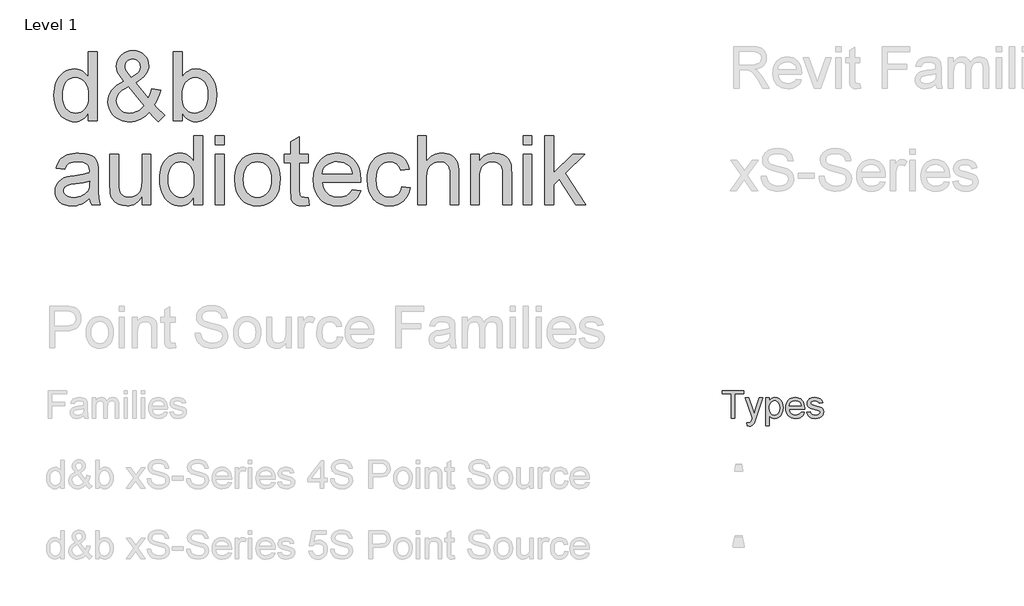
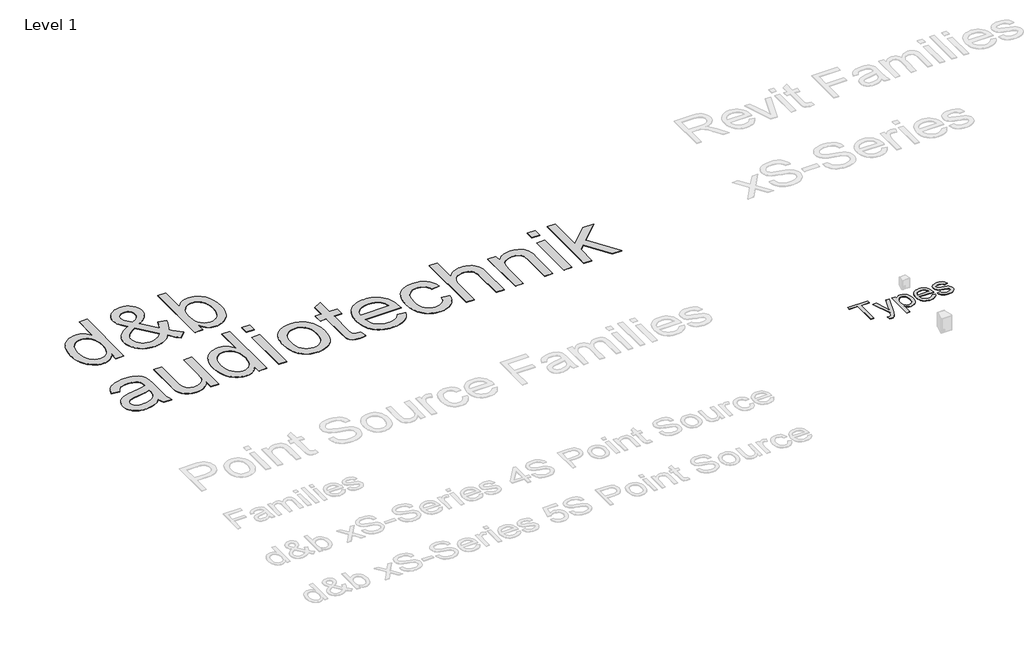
# One storey, part 53 of 55: 2 proxies.
"""IFC4 building model written with IfcOpenShell, lengths in millimetres."""

from ifc_helpers import new_model, si_unit, origin, origin_with_axes, place, context, project, spatial, polyline, outline, extrude, element, save

model = new_model("IFC4")

# Units and contexts
model_context = context("Model", 3, world=origin())
ifc_project = project(units=[si_unit("LENGTHUNIT", "METRE", prefix="MILLI")], contexts=[model_context])

# Site, building, storey
site = spatial("IfcSite", under=ifc_project)
building = spatial("IfcBuilding", under=site)
storey = spatial("IfcBuildingStorey", under=building, Name="Level 1", Elevation=0.0)

# Proxies
placement = place(None, origin())
element("IfcBuildingElementProxy", 1, Name="1000mm Arial", ObjectType="1000mm Arial", at=placement, inside=storey, context=model_context, shape_type="SweptSolid", body=[
    extrude(outline(polyline([(-20485.0918031, 21579.111869), (-20485.0918031, 21694.6019258), (-20502.4384754, 21663.947296), (-20521.720443, 21637.3799502), (-20542.937706, 21614.8998883), (-20566.0902643, 21596.5071105), (-20591.1781179, 21582.2016166), (-20618.2012669, 21571.9834066), (-20647.1597112, 21565.8524807), (-20678.0534508, 21563.8088387), (-20718.4630152, 21566.7678231), (-20757.1988107, 21575.6447762), (-20794.2608372, 21590.4396981), (-20829.6490948, 21611.1525887), (-20862.2577004, 21637.1632569), (-20890.9807709, 21667.8515115), (-20915.8183064, 21703.2173525), (-20936.7703069, 21743.26078), (-20953.4033857, 21787.2196312), (-20965.2841563, 21834.3317435), (-20972.4126187, 21884.597117), (-20974.7887728, 21938.0157516), (-20972.5994233, 21990.4555302), (-20966.0313746, 22040.4145442), (-20955.0846269, 22087.8927935), (-20939.75918, 22132.8902781), (-20920.0625062, 22174.0918939), (-20896.0020777, 22210.1825366), (-20867.5778945, 22241.1622064), (-20834.7899565, 22267.0309031), (-20798.7964521, 22287.429962), (-20760.7555697, 22302.0007184), (-20720.6673091, 22310.7431723), (-20678.5316705, 22313.6573235), (-20647.7163888, 22311.5725845), (-20618.6346535, 22305.3183676), (-20591.2864646, 22294.8946726), (-20565.671822, 22280.3014997), (-20542.0746689, 22262.3757332), (-20520.778948, 22241.9542577), (-20501.7846594, 22219.0370732), (-20485.0918031, 22193.6241796), (-20485.0918031, 22558.5058084), (-20362.6675607, 22558.5058084), (-20362.6675607, 21579.111869), (-20485.0918031, 21579.111869)]), holes=[polyline([(-20852.3645304, 21938.4939713), (-20848.9123819, 21879.1274792), (-20838.5559366, 21827.7562227), (-20821.2951944, 21784.3802017), (-20797.1301554, 21748.9994163), (-20768.2725855, 21721.5391447), (-20736.934251, 21701.9246649), (-20703.1151518, 21690.1559771), (-20666.815288, 21686.2330811), (-20630.3435639, 21689.9766447), (-20596.7262136, 21701.2073354), (-20565.9632372, 21719.9251532), (-20538.0546345, 21746.1300982), (-20514.8833958, 21780.0313914), (-20498.332511, 21821.8382539), (-20488.4019801, 21871.5506859), (-20485.0918031, 21929.1686872), (-20488.4617575, 21992.3385203), (-20498.5716208, 22046.5118453), (-20515.4213929, 22091.6886623), (-20539.0110739, 22127.8689713), (-20567.5323956, 22155.5907693), (-20599.1770896, 22175.3920537), (-20633.945156, 22187.2728242), (-20671.8365948, 22191.2330811), (-20708.8537882, 22187.4297401), (-20742.6728874, 22176.019717), (-20773.2938924, 22157.0030119), (-20800.7168031, 22130.3796247), (-20823.3126838, 22095.5667252), (-20839.4525986, 22051.9814831), (-20849.1365474, 21999.6238985), (-20852.3645304, 21938.4939713)])]), origin_with_axes(), (0.0, 0.0, 1.0), 5.0),
    extrude(outline(polyline([(-19617.362163, 21700.1014523), (-19647.8038355, 21668.157871), (-19679.590501, 21640.4734339), (-19712.7221594, 21617.0481409), (-19747.1988107, 21597.8819921), (-19783.0503436, 21582.9749875), (-19820.3066469, 21572.327127), (-19858.9677205, 21565.9384108), (-19899.0335645, 21563.8088387), (-19935.7219818, 21565.3854693), (-19970.4676317, 21570.1153609), (-20003.270514, 21577.9985138), (-20034.1306289, 21589.0349277), (-20063.0479762, 21603.2246028), (-20090.0225559, 21620.567539), (-20115.0543682, 21641.0637363), (-20138.143413, 21664.7131948), (-20169.42197, 21707.0505823), (-20191.7637965, 21751.8089571), (-20205.1688924, 21798.988319), (-20209.6372577, 21848.5886682), (-20206.0431377, 21892.569936), (-20195.260778, 21934.3693264), (-20177.2901785, 21973.9868394), (-20152.1313391, 22011.4224751), (-20119.829093, 22046.661289), (-20080.4282733, 22079.6883368), (-20033.9288799, 22110.5036185), (-19980.330913, 22139.1071341), (-20033.7420754, 22208.2098804), (-20065.8126838, 22262.9660357), (-20081.8629324, 22309.712011), (-20087.2130152, 22354.7842175), (-20082.9987041, 22397.569936), (-20070.3557709, 22437.4564476), (-20049.2842155, 22474.4437523), (-20019.784038, 22508.5318501), (-19983.9026163, 22537.0905326), (-19943.6873287, 22557.4895915), (-19899.138175, 22569.7290269), (-19850.2551554, 22573.8088387), (-19803.5839018, 22569.9083593), (-19761.3660692, 22558.2069211), (-19723.6016575, 22538.7045241), (-19690.2906667, 22511.4011682), (-19663.0919215, 22478.6281746), (-19643.6642463, 22442.7168643), (-19632.0076412, 22403.6672371), (-19628.1221061, 22361.4792932), (-19630.9988965, 22326.7336434), (-19639.6292676, 22293.273209), (-19654.0132194, 22261.09799), (-19674.150752, 22230.2079864), (-19700.0418653, 22200.6031983), (-19731.6865593, 22172.2836256), (-19769.084834, 22145.2492684), (-19812.2366895, 22119.5001266), (-19635.0562917, 21898.8017364), (-19604.8686734, 21961.866959), (-19582.2130152, 22034.3770205), (-19459.7887728, 22007.8358273), (-19477.213903, 21947.9836434), (-19497.4485739, 21894.4379817), (-19520.4927856, 21847.1988422), (-19546.346538, 21806.2662251), (-19512.6320493, 21763.9138931), (-19476.765572, 21725.0884315), (-19438.7471061, 21689.7898401), (-19398.5766516, 21658.018119), (-19490.3948334, 21563.8088387), (-19521.3745032, 21589.6327023), (-19552.8622813, 21620.9560925), (-19617.362163, 21700.1014523)]), holes=[polyline([(-19874.1661402, 22196.7326076), (-19810.1444783, 22237.3513931), (-19788.4004264, 22255.6657131), (-19773.500894, 22272.6499845), (-19756.2849849, 22306.9921365), (-19750.5463486, 22344.7416038), (-19752.4368108, 22367.2104574), (-19758.1081975, 22387.512378), (-19767.5605087, 22405.6473656), (-19780.7937444, 22421.6154201), (-19796.8664095, 22434.6394347), (-19814.8370091, 22443.9423022), (-19834.705543, 22449.5240228), (-19856.4720114, 22451.3845963), (-19878.7017552, 22449.5389671), (-19899.0036757, 22444.0020797), (-19917.3777732, 22434.773934), (-19933.8240474, 22421.85453), (-19947.3711148, 22406.2750289), (-19957.0475915, 22389.066592), (-19962.8534775, 22370.2292193), (-19964.7887728, 22349.7629107), (-19962.1585645, 22327.9142483), (-19954.2679395, 22304.9298141), (-19941.0571203, 22280.6900532), (-19922.4663296, 22255.0754107), (-19874.1661402, 22196.7326076)]), polyline([(-19699.376841, 21788.3329864), (-19917.9232425, 22061.1573235), (-19963.7202507, 22034.0333001), (-20001.4024684, 22007.8956048), (-20030.9698956, 21982.7442376), (-20052.4225323, 21958.5791985), (-20067.6433686, 21934.967101), (-20078.5153945, 21911.4745584), (-20085.03861, 21888.1015707), (-20087.2130152, 21864.8481379), (-20084.2390865, 21836.2446223), (-20075.3173003, 21807.1031095), (-20060.4476566, 21777.4235996), (-20039.6301554, 21747.2060925), (-20013.3579608, 21720.5304), (-19982.1242368, 21701.476334), (-19945.9289835, 21690.0438943), (-19904.7722008, 21686.2330811), (-19877.2969848, 21688.0114606), (-19849.3883822, 21693.3465991), (-19821.0463929, 21702.2384966), (-19792.2710171, 21714.6871531), (-19764.7210793, 21729.9602947), (-19740.055404, 21747.3256474), (-19718.2739912, 21766.7832113), (-19699.376841, 21788.3329864)])]), origin_with_axes(), (0.0, 0.0, 1.0), 5.0),
    extrude(outline(polyline([(-19153.7281667, 21579.111869), (-19276.1524092, 21579.111869), (-19276.1524092, 22558.5058084), (-19153.7281667, 22558.5058084), (-19153.7281667, 22195.2979485), (-19134.2481863, 22223.0384271), (-19113.468046, 22247.0801751), (-19091.3877459, 22267.4231927), (-19068.0072861, 22284.0674798), (-19043.3266664, 22297.0130364), (-19017.3458869, 22306.2598626), (-18990.0649476, 22311.8079583), (-18961.4838486, 22313.6573235), (-18929.5178507, 22311.9910268), (-18898.418626, 22306.9921365), (-18868.1861746, 22298.6606527), (-18838.8204963, 22286.9965754), (-18811.1734201, 22272.3137363), (-18786.0967747, 22254.925967), (-18763.5905602, 22234.8332675), (-18743.6547766, 22212.0356379), (-18710.3886189, 22158.7440305), (-18685.1924186, 22095.4695868), (-18669.3215024, 22024.8425153), (-18664.031197, 21949.4930243), (-18669.508307, 21862.5467056), (-18676.3546945, 21822.9964423), (-18685.9396369, 21786.0614429), (-18698.2631343, 21751.7417074), (-18713.3251867, 21720.0372359), (-18731.1257941, 21690.9480284), (-18751.6649565, 21664.4740849), (-18797.6861302, 21620.4330397), (-18822.3499374, 21603.1312005), (-18848.1158916, 21588.9751502), (-18874.9839928, 21577.9648889), (-18902.954241, 21570.1004166), (-18932.0266361, 21565.3817332), (-18962.2011781, 21563.8088387), (-18991.8694798, 21565.8375363), (-19019.9013734, 21571.9236292), (-19046.296859, 21582.0671173), (-19071.0559366, 21596.2680006), (-19094.1786062, 21614.5262792), (-19115.6648677, 21636.841953), (-19135.5147213, 21663.2150221), (-19153.7281667, 21693.6454864), (-19153.7281667, 21579.111869)]), holes=[polyline([(-19153.7281667, 21943.7543879), (-19151.6359556, 21888.5797904), (-19145.359322, 21841.6544826), (-19134.8982662, 21802.9784646), (-19120.252788, 21772.5517364), (-19090.5882224, 21734.7873247), (-19056.1115711, 21707.8127449), (-19016.8228341, 21691.6279971), (-18972.7220114, 21686.2330811), (-18936.1083159, 21690.2082823), (-18902.0650512, 21702.133886), (-18870.5922174, 21722.0098922), (-18841.6898145, 21749.8363008), (-18817.5247754, 21785.5383901), (-18800.2640332, 21829.0414381), (-18789.9075879, 21880.345445), (-18786.4554395, 21939.4504107), (-18789.7656164, 21999.6762037), (-18799.6961473, 22051.4733747), (-18816.2470322, 22094.8419234), (-18839.4182709, 22129.7818501), (-18867.2820404, 22156.6667636), (-18897.9105176, 22175.8702733), (-18931.3037024, 22187.3923792), (-18967.4615948, 22191.2330811), (-19004.0752903, 22187.2578799), (-19038.118555, 22175.3322762), (-19069.5913888, 22155.45627), (-19098.4937917, 22127.6298614), (-19122.6588308, 22092.2864369), (-19139.919573, 22049.8593832), (-19150.2760183, 22000.3487002), (-19153.7281667, 21943.7543879)])]), origin_with_axes(), (0.0, 0.0, 1.0), 5.0),
    extrude(outline(polyline([(-20469.7887728, 20473.9603538), (-20498.8182028, 20446.7167755), (-20528.2810195, 20423.8070631), (-20558.1772227, 20405.2312168), (-20588.5068126, 20390.9892364), (-20619.6135094, 20380.42357), (-20651.8410337, 20372.8766654), (-20719.6585645, 20366.8391417), (-20774.1681377, 20370.4706225), (-20821.9676909, 20381.365065), (-20863.0572239, 20399.5224691), (-20897.4367368, 20424.9428349), (-20924.5831768, 20456.0121708), (-20943.9734911, 20491.1164855), (-20955.6076796, 20530.2557788), (-20959.4857425, 20573.4300508), (-20953.6275512, 20624.1811162), (-20936.0529773, 20670.2695394), (-20908.9438983, 20709.7226644), (-20874.4821914, 20740.5678349), (-20833.9829608, 20763.8810451), (-20788.7613107, 20780.7382894), (-20744.7053211, 20790.123351), (-20682.8356478, 20799.1497478), (-20557.6616421, 20818.5176455), (-20509.331564, 20829.4569211), (-20470.5061023, 20841.2330811), (-20469.7887728, 20868.4916038), (-20471.8959283, 20898.1711138), (-20478.217395, 20923.1282042), (-20488.7531727, 20943.3628751), (-20503.5032614, 20958.8751266), (-20528.998349, 20974.3574893), (-20560.0527406, 20985.4163198), (-20596.6664362, 20992.051618), (-20638.8394357, 20994.2633841), (-20678.0534508, 20992.7913641), (-20711.7679395, 20988.3753041), (-20739.9829016, 20981.0152041), (-20762.6983372, 20970.7110641), (-20781.3638497, 20956.6558883), (-20797.4290427, 20938.042681), (-20810.893916, 20914.8714423), (-20821.7584698, 20887.142172), (-20944.1827122, 20902.4452023), (-20934.8649003, 20937.713905), (-20922.9318244, 20969.3959599), (-20908.3834846, 20997.4913671), (-20891.2198808, 21022.0001266), (-20870.7012669, 21043.4154024), (-20846.0878969, 21062.2303586), (-20817.3797707, 21078.4449952), (-20784.5768883, 21092.0593122), (-20748.3442741, 21102.8341997), (-20709.3469523, 21110.530548), (-20667.5849228, 21115.1483569), (-20623.0581857, 21116.6876266), (-20540.2962894, 21111.2478775), (-20505.3488906, 21104.4481912), (-20474.6905247, 21094.9286304), (-20425.2246748, 21070.3899822), (-20406.1631366, 21056.0359191), (-20390.8825228, 21040.29203), (-20368.1073097, 21003.0805598), (-20353.3422766, 20957.2013576), (-20348.8589669, 20914.8789144), (-20347.3645304, 20850.0801455), (-20347.3645304, 20697.767172), (-20345.8103164, 20565.0910948), (-20341.1476743, 20485.0789618), (-20331.9419452, 20432.5046839), (-20316.7584698, 20382.142172), (-20439.1827122, 20382.142172), (-20458.7897198, 20424.7037251), (-20469.7887728, 20473.9603538)]), holes=[polyline([(-20469.7887728, 20718.8088387), (-20552.0425607, 20698.4247241), (-20667.2935077, 20681.2685925), (-20730.8070612, 20671.8835309), (-20772.6213959, 20661.4224751), (-20800.0293623, 20647.8529912), (-20820.3238107, 20629.1426455), (-20832.8770777, 20606.7260972), (-20837.0615001, 20582.0380054), (-20834.7824843, 20563.013828), (-20827.9454371, 20545.6335309), (-20816.5503584, 20529.897114), (-20800.5972482, 20515.8045773), (-20780.2355501, 20504.1928053), (-20755.6147079, 20495.8986824), (-20726.7347215, 20490.9222087), (-20693.595591, 20489.2633841), (-20659.7615474, 20491.0940689), (-20627.8403827, 20496.5861233), (-20597.8320967, 20505.7395471), (-20569.7366895, 20518.5543406), (-20544.3910455, 20533.9694536), (-20522.6320493, 20550.9238363), (-20504.4597008, 20569.4174887), (-20489.8740001, 20589.4504107), (-20481.4005448, 20607.3836493), (-20475.3480768, 20629.1426455), (-20470.5061023, 20684.1379107), (-20469.7887728, 20718.8088387)])]), origin_with_axes(), (0.0, 0.0, 1.0), 5.0),
    extrude(outline(polyline([(-19719.940288, 20382.142172), (-19719.940288, 20505.7619637), (-19741.1762314, 20473.2019273), (-19764.2353874, 20444.9832291), (-19789.117756, 20421.1058691), (-19815.8233372, 20401.5698472), (-19844.352131, 20386.3751636), (-19874.7041374, 20375.5218181), (-19906.8793564, 20369.0098108), (-19940.877788, 20366.8391417), (-20000.5058064, 20372.9364429), (-20028.7730738, 20380.5580693), (-20056.00918, 20391.2283463), (-20102.575823, 20418.7259788), (-20120.7033384, 20434.8061162), (-20135.3936497, 20452.4404675), (-20157.4814219, 20493.388029), (-20171.8579016, 20542.5848804), (-20177.2378732, 20588.972191), (-20179.031197, 20656.4011682), (-20179.031197, 21101.3845963), (-20056.6069546, 21101.3845963), (-20056.6069546, 20714.0266417), (-20054.7538533, 20636.5550508), (-20049.1945493, 20589.2113008), (-20041.864338, 20567.1459451), (-20031.3509769, 20547.5762984), (-20017.6544659, 20530.5023608), (-20000.774805, 20515.9241323), (-19981.2201027, 20504.260055), (-19959.4984674, 20495.9285712), (-19935.6098991, 20490.9296809), (-19909.5543978, 20489.2633841), (-19882.7217895, 20490.9670418), (-19856.74101, 20496.0780148), (-19831.6120594, 20504.5963032), (-19807.3349376, 20516.5219069), (-19785.2247488, 20531.3840784), (-19766.5965971, 20548.7120702), (-19751.4504827, 20568.5058824), (-19739.7864054, 20590.7655148), (-19731.103729, 20616.9106823), (-19724.9018173, 20648.3610996), (-19719.940288, 20727.1776834), (-19719.940288, 21101.3845963), (-19597.5160455, 21101.3845963), (-19597.5160455, 20382.142172), (-19719.940288, 20382.142172)])), origin_with_axes(), (0.0, 0.0, 1.0), 5.0),
    extrude(outline(polyline([(-18985.3948334, 20382.142172), (-18985.3948334, 20497.6322288), (-19002.7415057, 20466.977599), (-19022.0234733, 20440.4102532), (-19043.2407363, 20417.9301914), (-19066.3932946, 20399.5374135), (-19091.4811482, 20385.2319196), (-19118.5042972, 20375.0137097), (-19147.4627415, 20368.8827837), (-19178.3564811, 20366.8391417), (-19218.7660455, 20369.7981261), (-19257.501841, 20378.6750792), (-19294.5638675, 20393.4700011), (-19329.9521251, 20414.1828917), (-19362.5607307, 20440.1935599), (-19391.2838012, 20470.8818145), (-19416.1213367, 20506.2476556), (-19437.0733372, 20546.291083), (-19453.706416, 20590.2499342), (-19465.5871866, 20637.3620466), (-19472.715649, 20687.62742), (-19475.0918031, 20741.0460546), (-19472.9024536, 20793.4858332), (-19466.3344049, 20843.4448472), (-19455.3876572, 20890.9230965), (-19440.0622103, 20935.9205811), (-19420.3655365, 20977.1221969), (-19396.305108, 21013.2128396), (-19367.8809248, 21044.1925094), (-19335.0929868, 21070.0612061), (-19299.0994824, 21090.4602651), (-19261.0586, 21105.0310215), (-19220.9703394, 21113.7734753), (-19178.8347008, 21116.6876266), (-19148.0194191, 21114.6028876), (-19118.9376838, 21108.3486706), (-19091.5894949, 21097.9249756), (-19065.9748523, 21083.3318027), (-19042.3776992, 21065.4060363), (-19021.0819783, 21044.9845608), (-19002.0876897, 21022.0673762), (-18985.3948334, 20996.6544826), (-18985.3948334, 21361.5361114), (-18862.970591, 21361.5361114), (-18862.970591, 20382.142172), (-18985.3948334, 20382.142172)]), holes=[polyline([(-19352.6675607, 20741.5242743), (-19349.2154122, 20682.1577822), (-19338.8589669, 20630.7865257), (-19321.5982247, 20587.4105048), (-19297.4331857, 20552.0297194), (-19268.5756158, 20524.5694477), (-19237.2372813, 20504.954968), (-19203.4181821, 20493.1862801), (-19167.1183183, 20489.2633841), (-19130.6465942, 20493.0069477), (-19097.0292439, 20504.2376384), (-19066.2662675, 20522.9554562), (-19038.3576648, 20549.1604012), (-19015.1864261, 20583.0616944), (-18998.6355413, 20624.868557), (-18988.7050104, 20674.5809889), (-18985.3948334, 20732.1989902), (-18988.7647878, 20795.3688233), (-18998.8746511, 20849.5421483), (-19015.7244233, 20894.7189653), (-19039.3141042, 20930.8992743), (-19067.8354259, 20958.6210724), (-19099.4801199, 20978.4223567), (-19134.2481863, 20990.3031273), (-19172.1396251, 20994.2633841), (-19209.1568185, 20990.4600431), (-19242.9759177, 20979.05002), (-19273.5969227, 20960.0333149), (-19301.0198334, 20933.4099277), (-19323.6157141, 20898.5970282), (-19339.7556289, 20855.0117861), (-19349.4395777, 20802.6542015), (-19352.6675607, 20741.5242743)])]), origin_with_axes(), (0.0, 0.0, 1.0), 5.0),
    extrude(outline(polyline([(-18679.3342273, 20382.142172), (-18679.3342273, 21101.3845963), (-18556.9099849, 21101.3845963), (-18556.9099849, 20382.142172), (-18679.3342273, 20382.142172)])), origin_with_axes(), (0.0, 0.0, 1.0), 5.0),
    extrude(outline(polyline([(-18679.3342273, 21239.111869), (-18679.3342273, 21361.5361114), (-18556.9099849, 21361.5361114), (-18556.9099849, 21239.111869), (-18679.3342273, 21239.111869)])), origin_with_axes(), (0.0, 0.0, 1.0), 5.0),
    extrude(outline(polyline([(-18403.8796819, 20741.7633841), (-18402.2245934, 20789.9477547), (-18397.259328, 20834.9116145), (-18388.9838856, 20876.6549635), (-18377.3982662, 20915.1778018), (-18362.5024698, 20950.4801292), (-18344.2964965, 20982.5619459), (-18322.7803463, 21011.4232519), (-18297.954019, 21037.064047), (-18251.2977098, 21071.8993631), (-18199.7994262, 21096.7817317), (-18143.4591682, 21111.7111528), (-18082.2769357, 21116.6876266), (-18014.7358757, 21110.6276863), (-17983.391937, 21103.0527611), (-17953.6657259, 21092.4478657), (-17925.5572424, 21078.8130002), (-17899.0664865, 21062.1481646), (-17874.1934581, 21042.4533588), (-17850.9381573, 21019.728583), (-17829.8946226, 20994.3325018), (-17811.6568925, 20966.6237801), (-17796.224967, 20936.6024178), (-17783.5988462, 20904.2684149), (-17773.77853, 20869.6217715), (-17766.7640184, 20832.6624875), (-17761.1524092, 20751.8059978), (-17763.6331738, 20686.2749549), (-17771.0754679, 20628.1264287), (-17783.4792913, 20577.3604189), (-17800.844644, 20533.9769258), (-17822.9548328, 20496.5039292), (-17849.5931644, 20463.4694092), (-17880.7596387, 20434.8733658), (-17916.4542558, 20410.7157989), (-17955.2871896, 20391.5197614), (-17995.8686142, 20377.808306), (-18038.1985295, 20369.5814328), (-18082.2769357, 20366.8391417), (-18150.8043238, 20372.8766654), (-18182.4845107, 20380.42357), (-18212.4423594, 20390.9892364), (-18240.6778701, 20404.5736647), (-18267.1910426, 20421.1768548), (-18291.9818769, 20440.7988067), (-18315.0503732, 20463.4395205), (-18335.8697424, 20488.9196637), (-18353.9131957, 20517.059904), (-18369.1807332, 20547.8602414), (-18381.6723547, 20581.3206758), (-18391.3880604, 20617.4412073), (-18398.3278501, 20656.2218358), (-18403.8796819, 20741.7633841)]), holes=[polyline([(-18281.4554395, 20742.002494), (-18277.9136248, 20682.6210576), (-18267.2881809, 20631.204968), (-18249.5791078, 20587.7542252), (-18224.7864054, 20552.2688292), (-18194.6286757, 20524.703947), (-18160.8245209, 20505.0147454), (-18123.3739409, 20493.2012245), (-18082.2769357, 20489.2633841), (-18041.3891516, 20493.223641), (-18004.0880152, 20505.1044116), (-17970.3735266, 20524.9056959), (-17940.2456857, 20552.627494), (-17915.4529833, 20588.4640825), (-17897.7439101, 20632.6097383), (-17887.1184662, 20685.0644613), (-17883.5766516, 20745.8282516), (-17887.1408828, 20803.3266979), (-17897.8335763, 20853.3977947), (-17915.6547322, 20896.0415417), (-17940.6043505, 20931.2579391), (-17970.8442741, 20958.8228213), (-18004.5363462, 20978.5120229), (-18041.6805667, 20990.3255438), (-18082.2769357, 20994.2633841), (-18123.3739409, 20990.3404882), (-18160.8245209, 20978.5718003), (-18194.6286757, 20958.9573206), (-18224.7864054, 20931.4970489), (-18249.5791078, 20896.1162635), (-18267.2881809, 20852.7402426), (-18277.9136248, 20801.3689861), (-18281.4554395, 20742.002494)])]), origin_with_axes(), (0.0, 0.0, 1.0), 5.0),
    extrude(outline(polyline([(-17363.2736213, 20484.2420773), (-17347.970591, 20378.5555243), (-17396.4501128, 20369.7682374), (-17439.549663, 20366.8391417), (-17498.3109082, 20371.920226), (-17522.0873938, 20378.2715814), (-17542.127788, 20387.1634788), (-17573.0925133, 20410.6560215), (-17593.2972955, 20440.4849751), (-17599.7831502, 20461.5415861), (-17604.4159035, 20491.7142601), (-17608.1221061, 20579.407797), (-17608.1221061, 20978.9603538), (-17699.940288, 20978.9603538), (-17699.940288, 21101.3845963), (-17608.1221061, 21101.3845963), (-17608.1221061, 21276.1738955), (-17485.6978637, 21348.1459599), (-17485.6978637, 21101.3845963), (-17363.2736213, 21101.3845963), (-17363.2736213, 20978.9603538), (-17485.6978637, 20978.9603538), (-17485.6978637, 20582.9944448), (-17484.0838722, 20542.7044353), (-17479.2418978, 20519.8694448), (-17470.7833869, 20507.2265115), (-17458.3197861, 20497.5126739), (-17440.655546, 20491.3257066), (-17416.5951175, 20489.2633841), (-17363.2736213, 20484.2420773)])), origin_with_axes(), (0.0, 0.0, 1.0), 5.0),
    extrude(outline(polyline([(-16737.284038, 20596.3845963), (-16617.250894, 20581.081566), (-16635.6548802, 20533.0055421), (-16660.4998879, 20490.6382658), (-16691.7859171, 20453.9797371), (-16729.5129679, 20423.0299561), (-16773.2924867, 20398.4464748), (-16822.7359201, 20380.8868453), (-16877.8432679, 20370.3510676), (-16938.6145304, 20366.8391417), (-16977.6305327, 20368.3541268), (-17014.5767404, 20372.8990819), (-17049.4531534, 20380.4740072), (-17082.2597719, 20391.0789026), (-17112.9965957, 20404.7137681), (-17141.6636248, 20421.3786037), (-17168.2608594, 20441.0734094), (-17192.7882993, 20463.7981853), (-17214.812558, 20489.25778), (-17233.9002489, 20517.1570424), (-17250.0513719, 20547.4959725), (-17263.2659272, 20580.2745702), (-17273.5439146, 20615.4928356), (-17280.8853341, 20653.1507687), (-17286.7584698, 20735.7856379), (-17280.8255567, 20821.2225757), (-17273.4094153, 20860.1414396), (-17263.0268173, 20896.5272336), (-17249.6777628, 20930.3799576), (-17233.3622517, 20961.6996117), (-17214.0802841, 20990.4861958), (-17191.8318599, 21016.7397099), (-17167.2184899, 21040.1650029), (-17140.8416847, 21060.4669234), (-17112.7014444, 21077.6454716), (-17082.797769, 21091.7006474), (-17051.1306585, 21102.6324508), (-17017.7001128, 21110.4408818), (-16982.5061319, 21115.1259404), (-16945.548716, 21116.6876266), (-16909.7999256, 21115.1296765), (-16875.721168, 21110.4558261), (-16843.3124433, 21102.6660756), (-16812.5737515, 21091.7604249), (-16783.5050925, 21077.7388739), (-16756.1064663, 21060.6014227), (-16730.377873, 21040.3480713), (-16706.3193126, 21016.9788198), (-16684.54724, 20990.7850831), (-16665.6781105, 20962.0582764), (-16649.711924, 20930.7983998), (-16636.6486805, 20897.0054533), (-16626.48838, 20860.6794368), (-16619.2310224, 20821.8203503), (-16613.4251364, 20736.5029675), (-16614.142466, 20703.5058084), (-17164.3342273, 20703.5058084), (-17157.2431259, 20654.6526775), (-17143.143117, 20611.866959), (-17122.0342007, 20575.1486528), (-17093.916377, 20544.4977591), (-17060.3438598, 20520.3327201), (-17022.8708632, 20503.0719779), (-16981.4973873, 20492.7155326), (-16936.2234319, 20489.2633841), (-16902.3594996, 20490.8624313), (-16871.0659982, 20495.6595726), (-16842.3429276, 20503.6548082), (-16816.190288, 20514.8481379), (-16792.6080791, 20529.5384492), (-16771.5963012, 20548.0246294), (-16753.1549541, 20570.3066784), (-16737.284038, 20596.3845963)]), holes=[polyline([(-17164.3342273, 20825.9300508), (-16735.8493789, 20825.9300508), (-16742.1409568, 20860.5710901), (-16752.4077359, 20890.6092648), (-16766.6497162, 20916.044575), (-16784.8668978, 20936.8770205), (-16818.2526104, 20961.9835546), (-16856.2411876, 20979.9167932), (-16898.8326293, 20990.6767364), (-16946.0269357, 20994.2633841), (-16989.0741806, 20991.4015381), (-17028.5497221, 20982.8160001), (-17064.4535603, 20968.5067702), (-17096.7856952, 20948.4738482), (-17123.9171908, 20923.6437848), (-17144.2191113, 20894.9431308), (-17157.6914569, 20862.3718862), (-17164.3342273, 20825.9300508)])]), origin_with_axes(), (0.0, 0.0, 1.0), 5.0),
    extrude(outline(polyline([(-16031.9099849, 20642.2936872), (-15909.4857425, 20626.9906569), (-15922.8011722, 20569.2232119), (-15943.6186734, 20518.1060096), (-15971.9382461, 20473.63905), (-16007.7598902, 20435.822333), (-16049.574225, 20405.6421868), (-16095.8718694, 20384.0849395), (-16146.6528235, 20371.1505912), (-16201.9170872, 20366.8391417), (-16270.5789746, 20372.8542488), (-16302.2479532, 20380.3731328), (-16332.1422884, 20390.8995702), (-16360.2619802, 20404.4335613), (-16386.6070286, 20420.9751059), (-16411.1774336, 20440.524204), (-16433.9731952, 20463.0808557), (-16454.5123575, 20488.4470482), (-16472.3129649, 20516.4247685), (-16487.3750173, 20547.0140167), (-16499.6985148, 20580.2147928), (-16509.2834572, 20616.0270967), (-16516.1298447, 20654.4509285), (-16521.6069546, 20739.1331758), (-16519.2681614, 20795.4211286), (-16512.2517818, 20848.0776005), (-16500.5578158, 20897.1025916), (-16484.1862633, 20942.4961019), (-16463.0250417, 20983.3465251), (-16436.9620683, 21018.7422549), (-16405.9973429, 21048.6832912), (-16370.1308656, 21073.1696341), (-16330.9841001, 21092.2087558), (-16290.17851, 21105.8081285), (-16247.7140954, 21113.967752), (-16203.5908561, 21116.6876266), (-16149.2755596, 21112.9515352), (-16100.1459579, 21101.743261), (-16056.2020511, 21083.0628041), (-16017.4438391, 21056.9101644), (-15984.528874, 21023.8831166), (-15958.1147079, 20984.5794353), (-15938.2013409, 20938.9991204), (-15924.7887728, 20887.142172), (-16047.2130152, 20871.8391417), (-16056.769937, 20900.4351852), (-16069.4203424, 20925.2503041), (-16085.1642315, 20946.2844986), (-16104.0016042, 20963.5377686), (-16125.454241, 20976.9802254), (-16149.0439219, 20986.5819803), (-16174.7706472, 20992.3430332), (-16202.6344167, 20994.2633841), (-16244.2320582, 20990.4824597), (-16281.7498879, 20979.1396862), (-16315.1879057, 20960.2350638), (-16344.5461118, 20933.7685925), (-16368.4496245, 20899.1275532), (-16385.5235621, 20855.6992269), (-16395.7679247, 20803.4836138), (-16399.1827122, 20742.4807137), (-16395.8426465, 20680.5587351), (-16385.8224494, 20627.7378751), (-16369.1221209, 20584.0181338), (-16345.7416611, 20549.399511), (-16316.9662852, 20523.0899555), (-16284.0812089, 20504.2974159), (-16247.086432, 20493.0218921), (-16205.9819546, 20489.2633841), (-16172.8577684, 20491.6096495), (-16142.587956, 20498.6484457), (-16115.1725175, 20510.3797726), (-16090.6114527, 20526.8036304), (-16069.5922026, 20548.0993512), (-16052.8022079, 20574.4462677), (-16040.2414687, 20605.8443796), (-16031.9099849, 20642.2936872)])), origin_with_axes(), (0.0, 0.0, 1.0), 5.0),
    extrude(outline(polyline([(-15802.3645304, 20382.142172), (-15802.3645304, 21361.5361114), (-15679.940288, 21361.5361114), (-15679.940288, 21001.4366796), (-15658.1476669, 21028.4486203), (-15634.9726921, 21051.8589689), (-15610.4153634, 21071.6677254), (-15584.4756809, 21087.8748898), (-15557.1536447, 21100.4804622), (-15528.4492546, 21109.4844424), (-15498.3625107, 21114.8868305), (-15466.893413, 21116.6876266), (-15428.6208928, 21114.7224425), (-15392.9486923, 21108.8268903), (-15359.8768114, 21099.00097), (-15329.4052501, 21085.2446815), (-15302.3111154, 21068.0213002), (-15279.3715143, 21047.7941015), (-15260.5864468, 21024.5630853), (-15245.955913, 20998.3282516), (-15234.9718043, 20967.4681367), (-15227.1260124, 20930.3612771), (-15222.4185372, 20887.0076727), (-15220.8493789, 20837.4073235), (-15220.8493789, 20382.142172), (-15343.2736213, 20382.142172), (-15343.2736213, 20824.7345016), (-15345.7095529, 20866.0706166), (-15353.0173476, 20901.369208), (-15365.1970055, 20930.6302757), (-15382.2485266, 20953.8538198), (-15403.768413, 20971.5330042), (-15429.3531667, 20984.160993), (-15459.002788, 20991.7377864), (-15492.7172766, 20994.2633841), (-15518.981999, 20992.5597265), (-15544.4546701, 20987.4487535), (-15569.1352897, 20978.9304651), (-15593.023858, 20967.0048614), (-15614.8276873, 20952.1651064), (-15633.25409, 20934.9043643), (-15648.3030661, 20915.2226349), (-15659.9746156, 20893.1199182), (-15668.7095973, 20867.5799975), (-15674.9488699, 20837.5866559), (-15679.940288, 20764.2397099), (-15679.940288, 20382.142172), (-15802.3645304, 20382.142172)])), origin_with_axes(), (0.0, 0.0, 1.0), 5.0),
    extrude(outline(polyline([(-15052.5160455, 20382.142172), (-15052.5160455, 21101.3845963), (-14930.0918031, 21101.3845963), (-14930.0918031, 21000.9584599), (-14909.8944931, 21028.0824833), (-14887.5601388, 21051.5899703), (-14863.0887403, 21071.4809208), (-14836.4802974, 21087.7553349), (-14807.7348103, 21100.4132125), (-14776.852279, 21109.4545537), (-14743.8327033, 21114.8793583), (-14708.6760834, 21116.6876266), (-14648.3307354, 21110.859324), (-14593.0664717, 21093.3744163), (-14568.3634354, 21080.8062049), (-14546.9780484, 21066.4147809), (-14528.9103104, 21050.2001443), (-14514.1602217, 21032.1622951), (-14491.893117, 20990.7066251), (-14477.4568599, 20942.1374372), (-14472.6148855, 20895.6903491), (-14471.000894, 20823.7780622), (-14471.000894, 20382.142172), (-14593.4251364, 20382.142172), (-14593.4251364, 20807.2794826), (-14596.9520067, 20870.583815), (-14607.5326175, 20915.596244), (-14615.9388231, 20932.6253485), (-14627.0499589, 20947.8461848), (-14657.3870209, 20972.8630527), (-14696.27226, 20988.9133013), (-14741.4341327, 20994.2633841), (-14778.6082419, 20991.2595667), (-14813.1371985, 20982.2481143), (-14845.0210023, 20967.2290269), (-14874.2596535, 20946.2023046), (-14898.6862189, 20916.7768489), (-14916.1337657, 20876.5615612), (-14926.6022938, 20825.5564417), (-14930.0918031, 20763.7614902), (-14930.0918031, 20382.142172), (-15052.5160455, 20382.142172)])), origin_with_axes(), (0.0, 0.0, 1.0), 5.0),
    extrude(outline(polyline([(-14302.6675607, 20382.142172), (-14302.6675607, 21101.3845963), (-14180.2433183, 21101.3845963), (-14180.2433183, 20382.142172), (-14302.6675607, 20382.142172)])), origin_with_axes(), (0.0, 0.0, 1.0), 5.0),
    extrude(outline(polyline([(-14302.6675607, 21239.111869), (-14302.6675607, 21361.5361114), (-14180.2433183, 21361.5361114), (-14180.2433183, 21239.111869), (-14302.6675607, 21239.111869)])), origin_with_axes(), (0.0, 0.0, 1.0), 5.0),
    extrude(outline(polyline([(-13996.6069546, 20382.142172), (-13996.6069546, 21361.5361114), (-13874.1827122, 21361.5361114), (-13874.1827122, 20835.2553349), (-13599.6846061, 21101.3845963), (-13430.3948334, 21101.3845963), (-13708.2404773, 20831.907797), (-13415.0918031, 20382.142172), (-13558.0794925, 20382.142172), (-13795.9937917, 20746.784691), (-13874.1827122, 20670.986869), (-13874.1827122, 20382.142172), (-13996.6069546, 20382.142172)])), origin_with_axes(), (0.0, 0.0, 1.0), 5.0),
])
element("IfcBuildingElementProxy", 2, Name="400mm Arial", ObjectType="400mm Arial", at=placement, inside=storey, context=model_context, shape_type="SweptSolid", body=[
    extrude(outline(polyline([(-11345.9583027, 17351.3054836), (-11345.9583027, 17694.0933624), (-11474.5037572, 17694.0933624), (-11474.5037572, 17743.0630593), (-11168.4431512, 17743.0630593), (-11168.4431512, 17694.0933624), (-11296.9886057, 17694.0933624), (-11296.9886057, 17351.3054836), (-11345.9583027, 17351.3054836)])), origin_with_axes(), (0.0, 0.0, 1.0), 5.0),
    extrude(outline(polyline([(-11119.4734542, 17241.1236654), (-11125.5946663, 17288.2761275), (-11100.7272421, 17283.9721502), (-11087.6479334, 17285.3231209), (-11077.4857648, 17289.3760328), (-11063.2348179, 17304.4399533), (-11049.8446663, 17340.4977184), (-11046.0189088, 17352.3575669), (-11150.0795148, 17639.0024533), (-11098.4317875, 17639.0024533), (-11043.2452345, 17479.2770745), (-11024.0208027, 17415.386923), (-11004.7963709, 17471.8168472), (-10948.0795148, 17639.0024533), (-10896.8143633, 17639.0024533), (-10996.9535679, 17344.4191199), (-11022.9687194, 17280.5289684), (-11036.2871379, 17260.1328983), (-11051.3749694, 17246.0015063), (-11068.9017213, 17237.7522165), (-11089.5369012, 17235.0024533), (-11119.4734542, 17241.1236654)])), origin_with_axes(), (0.0, 0.0, 1.0), 5.0),
    extrude(outline(polyline([(-10856.261333, 17241.1236654), (-10856.261333, 17639.0024533), (-10807.291636, 17639.0024533), (-10807.291636, 17590.9891957), (-10791.3190982, 17614.6730262), (-10773.4336815, 17631.590048), (-10752.5833027, 17641.740261), (-10727.7158785, 17645.1236654), (-10694.5991644, 17640.3892904), (-10665.6429618, 17626.1861654), (-10642.0667307, 17603.3750858), (-10625.0899315, 17572.8168472), (-10614.832119, 17536.7351711), (-10611.4128482, 17497.353779), (-10615.2744722, 17455.4736891), (-10626.8593444, 17418.0171313), (-10645.7968444, 17386.885029), (-10671.7163519, 17363.9783055), (-10701.9039703, 17349.88278), (-10733.6458027, 17345.1842715), (-10756.1579949, 17348.328566), (-10776.2551777, 17357.7614495), (-10793.4591313, 17372.000441), (-10807.291636, 17389.5630593), (-10807.291636, 17241.1236654), (-10856.261333, 17241.1236654)]), holes=[polyline([(-10807.291636, 17492.8585139), (-10801.9953529, 17448.9579457), (-10795.374999, 17431.9572355), (-10786.1065035, 17418.2562411), (-10762.6617828, 17400.1795366), (-10749.2447314, 17395.6603605), (-10734.697886, 17394.1539684), (-10719.9418195, 17395.7141602), (-10706.2796805, 17400.3947355), (-10682.2371853, 17419.1170366), (-10672.6757802, 17433.3141839), (-10665.8462052, 17450.9425574), (-10660.3825451, 17496.4929836), (-10665.7146947, 17540.1544419), (-10672.3798818, 17557.2866625), (-10681.7111436, 17571.2865442), (-10705.1199978, 17589.9371124), (-10718.3846166, 17594.5997544), (-10732.6893633, 17596.1539684), (-10746.9492769, 17594.5011216), (-10760.3663283, 17589.5425811), (-10784.6718444, 17569.7084192), (-10794.5680032, 17554.9882191), (-10801.6366881, 17537.2731682), (-10805.8778991, 17516.5632665), (-10807.291636, 17492.8585139)])]), origin_with_axes(), (0.0, 0.0, 1.0), 5.0),
    extrude(outline(polyline([(-10354.8958027, 17437.0024533), (-10306.8825451, 17430.8812411), (-10314.2441396, 17411.6508316), (-10324.1821427, 17394.7039211), (-10336.6965544, 17380.0405096), (-10351.7873747, 17367.6605972), (-10369.2991822, 17357.8272047), (-10389.0765555, 17350.8033529), (-10435.4279997, 17345.1842715), (-10465.8128837, 17347.6082475), (-10492.8860963, 17354.8801758), (-10516.6476375, 17367.0000563), (-10537.0975072, 17383.9678889), (-10553.5422871, 17405.3114317), (-10565.2885584, 17430.5584429), (-10572.3363212, 17459.7089223), (-10574.6855754, 17492.7628699), (-10572.3124102, 17526.937645), (-10565.1929144, 17557.0595082), (-10553.3270882, 17583.1284594), (-10536.7149315, 17605.1444987), (-10516.3188614, 17622.6353841), (-10493.1012951, 17635.1288737), (-10467.0622326, 17642.6249675), (-10438.2016739, 17645.1236654), (-10410.2706547, 17642.6309452), (-10385.0116881, 17635.1527847), (-10362.4247741, 17622.6891839), (-10342.5099125, 17605.2401427), (-10326.2534317, 17583.2719253), (-10314.6416597, 17557.2507961), (-10307.6745965, 17527.1767549), (-10305.3522421, 17493.0498018), (-10305.6391739, 17479.8509381), (-10525.7158785, 17479.8509381), (-10522.8794379, 17460.3096858), (-10517.2394343, 17443.1953983), (-10508.7958678, 17428.5080759), (-10497.5487383, 17416.2477184), (-10469.1305328, 17399.6774059), (-10434.4715603, 17394.1539684), (-10408.4085868, 17396.7124438), (-10386.4583027, 17404.3878699), (-10368.620708, 17417.6584665), (-10354.8958027, 17437.0024533)]), holes=[polyline([(-10525.7158785, 17528.8206351), (-10354.3219391, 17528.8206351), (-10360.9452819, 17554.6923207), (-10373.9289466, 17573.199423), (-10387.2832317, 17583.2420366), (-10402.4786625, 17590.4153321), (-10438.3929618, 17596.1539684), (-10471.4020764, 17591.5750148), (-10498.6964656, 17577.838154), (-10517.6698321, 17556.4258671), (-10525.7158785, 17528.8206351)])]), origin_with_axes(), (0.0, 0.0, 1.0), 5.0),
    extrude(outline(polyline([(-10274.7461815, 17437.0024533), (-10225.7764845, 17443.1236654), (-10218.0532364, 17422.1776427), (-10203.1088709, 17406.7789684), (-10180.847744, 17397.3102184), (-10151.1742118, 17394.1539684), (-10121.8593444, 17397.0471976), (-10101.2480754, 17405.7268851), (-10089.0534732, 17418.3040631), (-10084.9886057, 17432.8897639), (-10089.0773841, 17445.371298), (-10101.3437194, 17454.8878699), (-10151.7480754, 17468.8518851), (-10225.4895527, 17492.8106919), (-10244.1520764, 17504.8498728), (-10257.6737383, 17520.7865442), (-10265.8871616, 17539.6044893), (-10268.6249694, 17560.2874911), (-10266.4251588, 17579.2608576), (-10259.8257269, 17596.775654), (-10249.4244485, 17612.1384618), (-10235.8190982, 17624.6558624), (-10204.6869959, 17639.1459192), (-10162.5558406, 17645.1236654), (-10130.6824978, 17642.7206114), (-10102.9696663, 17635.5114495), (-10080.6846285, 17624.2015536), (-10065.0946663, 17609.496298), (-10054.7651209, 17590.3077326), (-10048.261333, 17565.5479078), (-10097.23103, 17559.4266957), (-10103.4120196, 17574.8373254), (-10115.6424883, 17586.4461086), (-10134.0419911, 17593.7270035), (-10158.730083, 17596.1539684), (-10186.8494012, 17593.8346029), (-10205.5956133, 17586.8765063), (-10216.1403576, 17576.8338927), (-10219.6552724, 17565.260976), (-10213.8209921, 17551.010029), (-10195.5529997, 17540.2022639), (-10153.3740224, 17529.7770745), (-10081.4976019, 17506.7268851), (-10062.51228, 17495.7039211), (-10048.1178671, 17480.6160896), (-10039.0436483, 17461.4155688), (-10036.0189088, 17438.0545366), (-10039.56969, 17413.9044419), (-10050.2220338, 17391.1890063), (-10067.5694533, 17371.6895982), (-10091.2054618, 17357.1875858), (-10119.7551777, 17348.1851), (-10151.8437194, 17345.1842715), (-10178.1996024, 17346.630886), (-10201.2199031, 17350.9707298), (-10220.9046214, 17358.2038027), (-10237.2537572, 17368.3301048), (-10250.6080423, 17381.3018141), (-10261.308208, 17397.0711086), (-10269.3542544, 17415.6379883), (-10274.7461815, 17437.0024533)])), origin_with_axes(), (0.0, 0.0, 1.0), 5.0),
])

save(model, "model.ifc")
